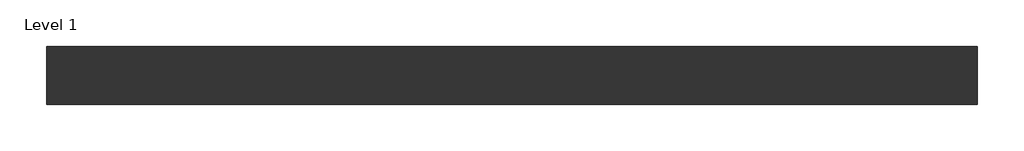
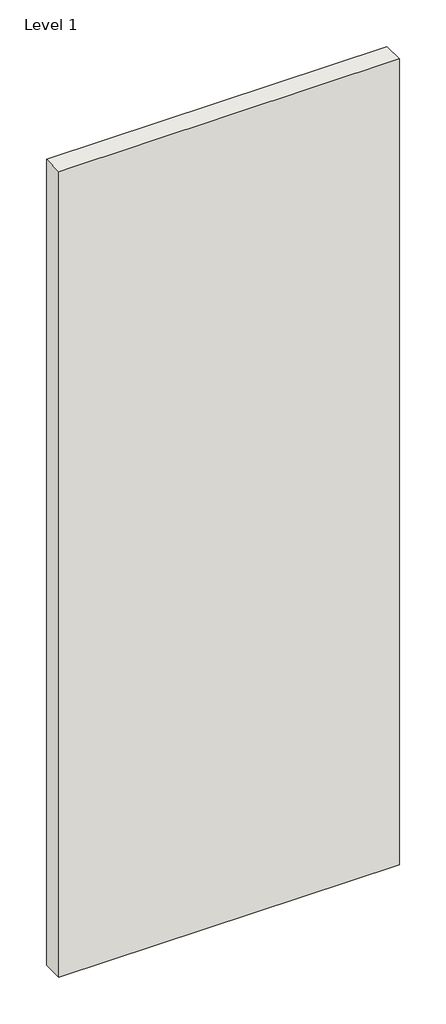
# One storey: 1 wall.
"""IFC4 building model written with IfcOpenShell, lengths in millimetres."""

import ifcopenshell
import ifcopenshell.guid

model = None  # the IFC model being written
_history = None  # IfcOwnerHistory: only IFC2X3 demands one
_inside = {}  # id of a spatial element -> (the spatial element, [elements in it])
_under = {}  # id of a project, library or spatial element -> (it, [spatial elements below it])
_declared = {}  # id of a project -> (the project, [libraries it declares])
_typed = {}  # id of a type object -> (the type object, [elements of that type])
_made_of = {}  # id of a material, layer set ... -> (it, [elements and type objects made of it])


def new_model(schema):
    """Start an empty IFC model of exactly this schema.

    Asked for "IFC4X3", IfcOpenShell would pick the latest addendum, in which some entities
    have other attributes; the version numbers below select the first issue.
    IFC2X3 requires an IfcOwnerHistory on every rooted entity: one is made here for all.
    """
    global model, _history
    if schema == "IFC4X3":
        model = ifcopenshell.file(schema_version=(4, 3, 0, 0))
    else:
        model = ifcopenshell.file(schema=schema)
    _inside.clear()
    _under.clear()
    _declared.clear()
    _typed.clear()
    _made_of.clear()
    _history = None
    if model.schema == "IFC2X3":
        org = make("IfcOrganization", Name="unknown")
        user = make(
            "IfcPersonAndOrganization",
            ThePerson=make("IfcPerson", FamilyName="unknown"),
            TheOrganization=org,
        )
        app = make(
            "IfcApplication",
            ApplicationDeveloper=org,
            Version="unknown",
            ApplicationFullName="unknown",
            ApplicationIdentifier="unknown",
        )
        _history = make(
            "IfcOwnerHistory",
            OwningUser=user,
            OwningApplication=app,
            ChangeAction="ADDED",
            CreationDate=0,
        )
    return model


def make(cls, **values):
    """One entity of the class cls with the attributes given. An attribute that is None is left unset."""
    return model.create_entity(
        cls, **{name: value for name, value in values.items() if value is not None}
    )


def rooted(cls, **values):
    """An entity with a GlobalId (a new one), such as an element, a storey or a relation."""
    return make(cls, GlobalId=ifcopenshell.guid.new(), OwnerHistory=_history, **values)


def si_unit(unit_type, name, prefix=None):
    """IfcSIUnit, for example si_unit("LENGTHUNIT", "METRE", prefix="MILLI")."""
    return make("IfcSIUnit", UnitType=unit_type, Prefix=prefix, Name=name)


def assignment(units):
    """IfcUnitAssignment: the units of a project."""
    return None if units is None else make("IfcUnitAssignment", Units=units)


def point(xyz):
    """IfcCartesianPoint."""
    return None if xyz is None else make("IfcCartesianPoint", Coordinates=xyz)


def direction(xyz):
    """IfcDirection."""
    return None if xyz is None else make("IfcDirection", DirectionRatios=xyz)


def frame(location, z_axis=None, x_axis=None):
    """IfcAxis2Placement3D, a coordinate frame: its origin and axes. An axis left out is left unset."""
    return make(
        "IfcAxis2Placement3D",
        Location=point(location),
        Axis=direction(z_axis),
        RefDirection=direction(x_axis),
    )


def origin():
    """The frame at (0, 0, 0) with its axes left unset."""
    return frame((0.0, 0.0, 0.0))


def origin_with_axes():
    """The frame at (0, 0, 0) with the z axis (0, 0, 1) and the x axis (1, 0, 0) written out."""
    return frame((0.0, 0.0, 0.0), z_axis=(0.0, 0.0, 1.0), x_axis=(1.0, 0.0, 0.0))


def place(relative_to, where):
    """IfcLocalPlacement: puts the frame where relative to a parent placement (None: the world)."""
    return make(
        "IfcLocalPlacement", PlacementRelTo=relative_to, RelativePlacement=where
    )


def context(
    kind, dimensions, precision=None, world=None, true_north=None, identifier=None
):
    """IfcGeometricRepresentationContext, for example the 3D "Model" context."""
    return make(
        "IfcGeometricRepresentationContext",
        ContextIdentifier=identifier,
        ContextType=kind,
        CoordinateSpaceDimension=dimensions,
        Precision=precision,
        WorldCoordinateSystem=world,
        TrueNorth=true_north,
    )


def project(units=None, contexts=None):
    """IfcProject with its units and contexts."""
    return rooted(
        "IfcProject",
        Name="project",
        RepresentationContexts=contexts,
        UnitsInContext=assignment(units),
    )


def spatial(cls, under=None, at=None, **own):
    """A site, building, storey or space (cls), placed at a placement, below another one or the project."""
    s = rooted(cls, ObjectPlacement=at, **own)
    if under is not None:
        _under.setdefault(under.id(), (under, []))[1].append(s)
    return s


def polyline(points):
    """IfcPolyline through the points."""
    return make("IfcPolyline", Points=[point(p) for p in points])


def outline(outer, holes=None, kind="AREA"):
    """IfcArbitraryClosedProfileDef: a profile drawn as a closed curve; with holes, ...WithVoids."""
    if holes is None:
        return make("IfcArbitraryClosedProfileDef", ProfileType=kind, OuterCurve=outer)
    return make(
        "IfcArbitraryProfileDefWithVoids",
        ProfileType=kind,
        OuterCurve=outer,
        InnerCurves=holes,
    )


def extrude(swept, where, along, depth):
    """IfcExtrudedAreaSolid: the profile swept, set in the frame where, extruded along a direction by depth."""
    return make(
        "IfcExtrudedAreaSolid",
        SweptArea=swept,
        Position=where,
        ExtrudedDirection=direction(along),
        Depth=depth,
    )


def shape(context_of_items, identifier, shape_type, items):
    """IfcShapeRepresentation: the items that make up one representation, for example the "Body"."""
    return make(
        "IfcShapeRepresentation",
        ContextOfItems=context_of_items,
        RepresentationIdentifier=identifier,
        RepresentationType=shape_type,
        Items=items,
    )


def made_of(thing, what):
    """Note that an element or type object is made of a material, layer set ...; save() writes the relation."""
    if what is not None:
        _made_of.setdefault(what.id(), (what, []))[1].append(thing)
    return thing


def element(
    cls,
    number,
    at=None,
    inside=None,
    cuts=None,
    type_object=None,
    material=None,
    context=None,
    identifier="Body",
    shape_type=None,
    held_by="IfcProductDefinitionShape",
    body=None,
    shapes=None,
    **own,
):
    """One element of the class cls, such as IfcWall. Its Tag is "e" and its number.

    at: its placement. inside: the storey or other place that contains it. cuts: it is an
    opening in that element (IfcRelVoidsElement). A single representation is given by context,
    identifier, shape_type and body (its items); several are given by shapes. held_by: the class
    of the entity that holds the representations. save() writes the other relations.
    """
    e = rooted(cls, Tag="e%d" % number, ObjectPlacement=at, **own)
    if body is not None:
        shapes = [shape(context, identifier, shape_type, body)]
    if shapes is not None:
        e.Representation = make(held_by, Representations=shapes)
    if inside is not None:
        _inside.setdefault(inside.id(), (inside, []))[1].append(e)
    if cuts is not None:
        rooted(
            "IfcRelVoidsElement", RelatingBuildingElement=cuts, RelatedOpeningElement=e
        )
    if type_object is not None:
        _typed.setdefault(type_object.id(), (type_object, []))[1].append(e)
    return made_of(e, material)


def aggregate(whole, parts):
    """IfcRelAggregates: a whole, such as a stair, and the parts it consists of."""
    return rooted("IfcRelAggregates", RelatingObject=whole, RelatedObjects=parts)


def save(model, path):
    """Write the relations noted so far, then the file.

    IfcRelAggregates (storeys below a building ...), IfcRelContainedInSpatialStructure (elements
    in a storey), IfcRelDefinesByType, IfcRelAssociatesMaterial and IfcRelDeclares: one each for
    every whole, place, type object, material and project.
    """
    for whole, parts in _under.values():
        aggregate(whole, parts)
    for where, things in _inside.values():
        rooted(
            "IfcRelContainedInSpatialStructure",
            RelatedElements=things,
            RelatingStructure=where,
        )
    for kind, things in _typed.values():
        rooted("IfcRelDefinesByType", RelatedObjects=things, RelatingType=kind)
    for what, things in _made_of.values():
        rooted("IfcRelAssociatesMaterial", RelatedObjects=things, RelatingMaterial=what)
    for by, libraries in _declared.values():
        rooted("IfcRelDeclares", RelatingContext=by, RelatedDefinitions=libraries)
    model.write(path)


model = new_model("IFC4")

# Units and contexts
model_context = context("Model", 3, world=origin())
ifc_project = project(units=[si_unit("LENGTHUNIT", "METRE", prefix="MILLI")], contexts=[model_context])

# Site, building, storey
site = spatial("IfcSite", under=ifc_project)
building = spatial("IfcBuilding", under=site)
storey = spatial("IfcBuildingStorey", under=building, Name="Level 1", Elevation=0.0)

# Wall
placement = place(None, origin())
element("IfcWall", 1, ObjectType="RIGIPS - 3.22.00 - EI 15, REI 15 - 3000 - 12dB", at=placement, inside=storey, context=model_context, shape_type="SweptSolid", body=[
    extrude(outline(polyline([(1000.0, -31.25), (0.0, -31.25), (0.0, 31.25), (1000.0, 31.25), (1000.0, -31.25)])), origin_with_axes(), (0.0, 0.0, 1.0), 2500.0),
])

save(model, "model.ifc")
